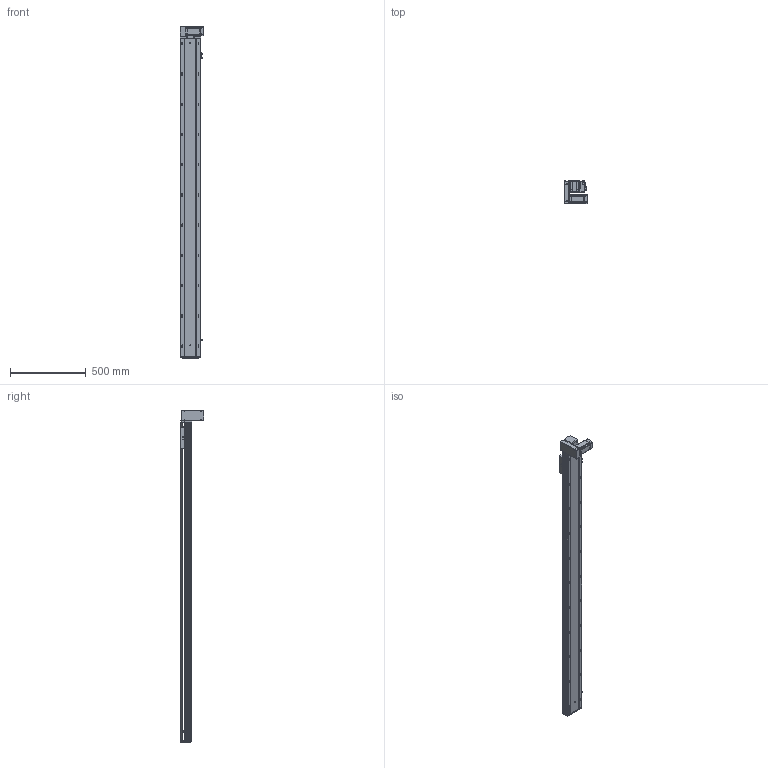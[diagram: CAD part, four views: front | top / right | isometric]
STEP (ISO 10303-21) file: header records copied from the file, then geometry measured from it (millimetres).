
FILE_DESCRIPTION (( 'STEP AP203' ), '1' );
FILE_NAME ('RY140-T-300-DL.SLDASM_1850.step', '2021-03-01T06:07:39', ( '盈信电脑' ), ( '东莞市道滘镇水果街19号' ), 'SwSTEP 2.0', 'SolidWorks 2012', '' );
FILE_SCHEMA (( 'CONFIG_CONTROL_DESIGN' ));
Length unit declared in the file: millimetre
Products named in the file (18): RY140-T翋肮謫裔啣; RY140-T-300-DL.SLDASM_1850; 滅袉蝶18-10; RY140-T萇儂欶; RY120-T蹟翐M4; RY140-T萇儂假蚾啣; 侂狟400W侜督萇儂; 15; RY120-T主同步轮轴承压盖; RY120-T肮祭湍揤踡輸2; RY120外置感应片(140共用）; RY120-T肮祭湍揤踡輸1; RY140-T翋肮祭謫盓傅釱; RY140肮祭謫臏賑輸; RY140-T-300-DL倰第奻裔啣_1850; 覜茼ん672; RY140綴裔啣; RY140-T-300-DL倰第菁釱_1850
Assembly tree (23 placements, depth 3):
  RY140-T-300-DL.SLDASM_1850
    RY140-T-300-DL倰第菁釱_1850
    RY140肮祭謫臏賑輸
    RY140-T-300-DL倰第奻裔啣_1850
    RY140綴裔啣
    覜茼ん672  x3
    RY120外置感应片(140共用）
    RY120-T肮祭湍揤踡輸2
    RY120-T肮祭湍揤踡輸1
    RY140-T翋肮祭謫盓傅釱
    RY140-T萇儂假蚾啣
    侂狟400W侜督萇儂
      15
    RY120-T主同步轮轴承压盖
    RY120-T蹟翐M4  x4
    RY140-T萇儂欶
    滅袉蝶18-10  x2
    RY140-T翋肮謫裔啣
Bounding box: 157 x 158.5 x 2196 mm (x, y, z)
Volume: 6029270.4 mm3; surface area: 2354839.8 mm2
Topology: 22 solids, 22 shells, 2858 faces, 7850 edges, 5000 vertices
Faces by surface type: plane 1385, cylinder 1095, cone 278, bspline 100
Entity records: 90436 total; most frequent: CARTESIAN_POINT 21939, ORIENTED_EDGE 14068, DIRECTION 13456, EDGE_CURVE 7034, VERTEX_POINT 4599, AXIS2_PLACEMENT_3D 4525, VECTOR 4406, LINE 4406
